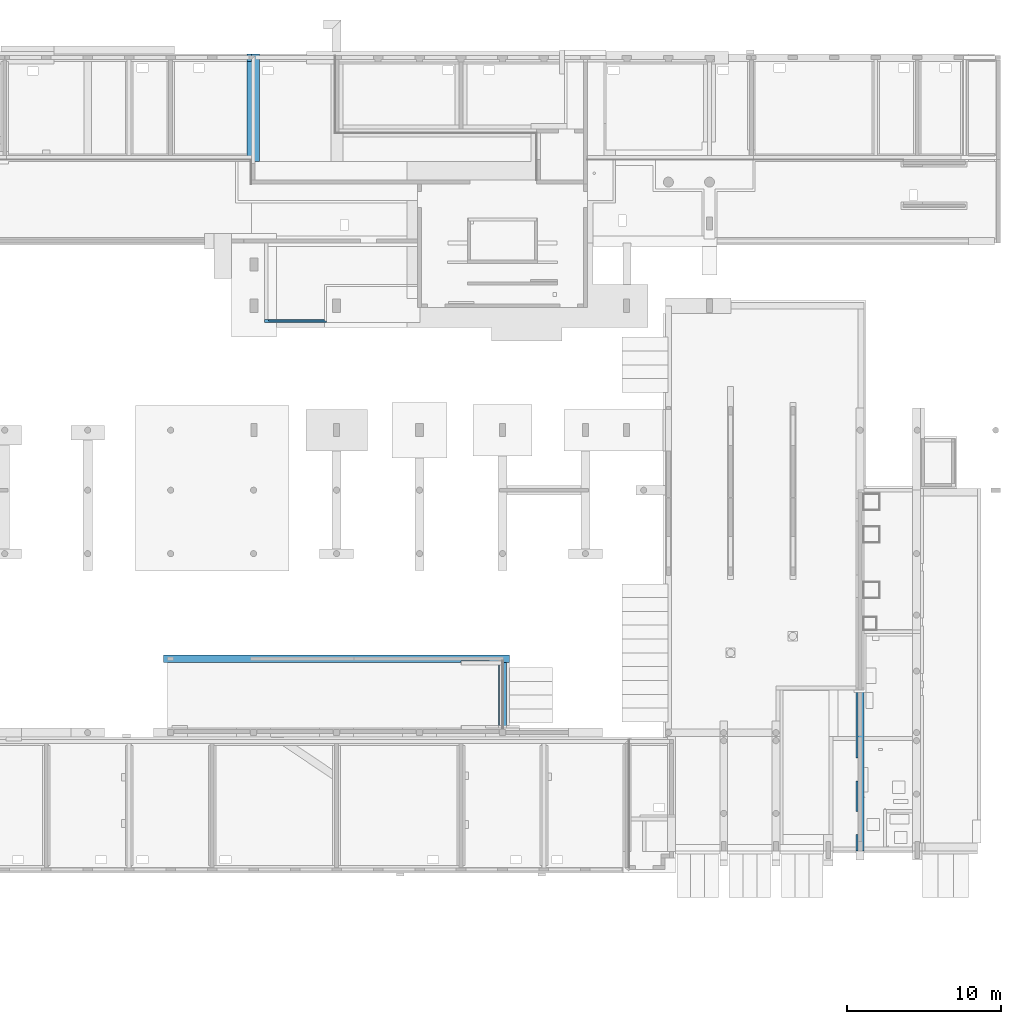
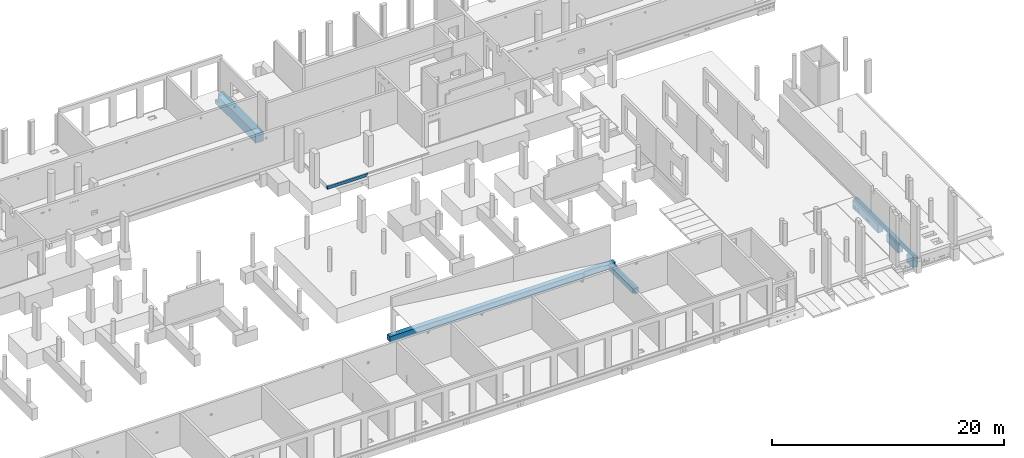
# One storey, part 58 of 60: 5 footings.
"""IFC2X3 building model written with IfcOpenShell, lengths in millimetres."""

from ifc_helpers import new_model, entity, si_unit, converted_unit, derived_unit, direction, frame, origin, place, context, subcontext, project, spatial, faceted_brep, material, element, save


model = new_model("IFC2X3")

# Units and contexts
model_context = context("Model", 3, precision=0.01, world=origin(), true_north=direction((6.12303176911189e-17, 1.0)))
body_context = subcontext(model_context, "Body", "Model", "MODEL_VIEW")
ifc_project = project(units=[si_unit("LENGTHUNIT", "METRE", prefix="MILLI"), si_unit("AREAUNIT", "SQUARE_METRE"), si_unit("VOLUMEUNIT", "CUBIC_METRE"), converted_unit("PLANEANGLEUNIT", "DEGREE", entity("IfcRatioMeasure", 0.0174532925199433), si_unit("PLANEANGLEUNIT", "RADIAN"), dimensions=[0, 0, 0, 0, 0, 0, 0]), si_unit("MASSUNIT", "GRAM", prefix="KILO"), derived_unit("MASSDENSITYUNIT", [(si_unit("MASSUNIT", "GRAM", prefix="KILO"), 1), (si_unit("LENGTHUNIT", "METRE"), -3)]), si_unit("TIMEUNIT", "SECOND"), si_unit("FREQUENCYUNIT", "HERTZ"), si_unit("THERMODYNAMICTEMPERATUREUNIT", "DEGREE_CELSIUS"), derived_unit("THERMALTRANSMITTANCEUNIT", [(si_unit("MASSUNIT", "GRAM", prefix="KILO"), 1), (si_unit("THERMODYNAMICTEMPERATUREUNIT", "KELVIN"), -1), (si_unit("TIMEUNIT", "SECOND"), -3)]), derived_unit("VOLUMETRICFLOWRATEUNIT", [(si_unit("LENGTHUNIT", "METRE"), 3), (si_unit("TIMEUNIT", "SECOND"), -1)]), si_unit("ELECTRICCURRENTUNIT", "AMPERE"), si_unit("ELECTRICVOLTAGEUNIT", "VOLT"), si_unit("POWERUNIT", "WATT"), si_unit("FORCEUNIT", "NEWTON", prefix="KILO"), si_unit("ILLUMINANCEUNIT", "LUX"), si_unit("LUMINOUSFLUXUNIT", "LUMEN"), si_unit("LUMINOUSINTENSITYUNIT", "CANDELA"), derived_unit("USERDEFINED", [(si_unit("MASSUNIT", "GRAM", prefix="KILO"), -1), (si_unit("LENGTHUNIT", "METRE"), -2), (si_unit("TIMEUNIT", "SECOND"), 3), (si_unit("LUMINOUSFLUXUNIT", "LUMEN"), 1)]), derived_unit("LINEARVELOCITYUNIT", [(si_unit("LENGTHUNIT", "METRE"), 1), (si_unit("TIMEUNIT", "SECOND"), -1)]), si_unit("PRESSUREUNIT", "PASCAL"), derived_unit("USERDEFINED", [(si_unit("LENGTHUNIT", "METRE"), -2), (si_unit("MASSUNIT", "GRAM", prefix="KILO"), 1), (si_unit("TIMEUNIT", "SECOND"), -2)])], contexts=[model_context])

# Site, building, storey
site_placement = place(None, origin())
site = spatial("IfcSite", under=ifc_project, at=site_placement, Name="Default", CompositionType="ELEMENT")
building_placement = place(site_placement, origin())
building = spatial("IfcBuilding", under=site, at=building_placement, Name="niet gebruiken", CompositionType="ELEMENT")
storey_placement = place(building_placement, origin())
storey = spatial("IfcBuildingStorey", under=building, at=storey_placement, Name="00 begane grond", CompositionType="ELEMENT", Elevation=0.0)

# Footings
ifc_material = material(Name="NLRS_f2_beton ihwg")
footing_1_placement = place(storey_placement, frame((69750.0, 13751.0, -800.0)))
element("IfcFooting", 1, at=footing_1_placement, inside=storey, material=ifc_material, Name="NLRS_16.12_SF_WPB_funderingsbalk ihwg recht_gen:500x600", ObjectType="NLRS_16.12_SF_WPB_funderingsbalk ihwg recht_gen:500x600", PredefinedType="FOOTING_BEAM", context=body_context, shape_type="Brep", body=[
    faceted_brep([(0.0, 500.0, 600.0), (0.0, 500.0, 0.0), (0.0, 0.0, 0.0), (0.0, 0.0, 600.0), (22500.0, 500.0, 600.0), (22500.0, 0.0, 600.0), (22500.0, 0.0, 400.0), (22500.0, 0.0, 200.0), (22500.0, 0.0, 0.0), (22500.0, 500.0, 0.0), (22300.0, 0.0, 0.0), (21949.9998372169, 0.0, 0.0), (21949.9998372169, 105.0, 0.0), (19350.0, 105.0, 0.0), (19350.0, 0.0, 0.0), (19350.0, 0.0, 600.0), (19350.0, 105.0, 600.0), (21208.2927959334, 105.0, 600.0), (21208.2927959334, 0.0, 600.0), (21800.0, 0.0, 600.0), (22300.0, 0.0, 600.0), (21949.9998372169, 105.0, 504.882939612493), (21949.9998372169, 0.0, 504.882939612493), (21800.0, 0.0, 524.119029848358)], [[[0, 1, 2, 3]], [[4, 5, 6, 7, 8, 9]], [[1, 0, 4, 9]], [[2, 1, 9, 8, 10, 11, 12, 13, 14]], [[3, 2, 14, 15]], [[0, 3, 15, 16, 17, 18, 19, 20, 5, 4]], [[12, 21, 17, 16, 13]], [[21, 12, 11, 22]], [[17, 21, 22, 23, 18]], [[13, 16, 15, 14]], [[8, 7, 6, 5, 20, 19, 18, 23, 22, 11, 10]]]),
])
footing_2_placement = place(storey_placement, frame((75175.0, 46381.0, -1492.0)))
element("IfcFooting", 2, at=footing_2_placement, inside=storey, material=ifc_material, Name="NLRS_16.12_SF_WPB_funderingsbalk ihwg recht_gen:800x1000", ObjectType="NLRS_16.12_SF_WPB_funderingsbalk ihwg recht_gen:800x1000", PredefinedType="FOOTING_BEAM", context=body_context, shape_type="Brep", body=[
    faceted_brep([(800.0, 0.0, 0.0), (800.0, 0.0, 1000.0), (0.0, 0.0, 1000.0), (0.0, 0.0, 390.0), (0.0, 0.0, 0.0), (800.0, 6500.0, 1000.0), (800.0, 7000.0, 1000.0), (275.0, 7000.0, 1000.0), (275.0, 6625.0, 1000.0), (275.0, 6500.0, 1000.0), (0.0, 6500.0, 1000.0), (0.0, 490.0, 1000.0), (800.0, 7000.0, 0.0), (0.0, 7000.0, 0.0), (0.0, 7000.0, 400.0), (275.0, 7000.0, 400.0), (800.0, 7000.0, 400.0), (0.0, 6500.0, 400.0), (275.0, 6500.0, 400.0)], [[[0, 1, 2, 3, 4]], [[2, 1, 5, 6, 7, 8, 9, 10, 11]], [[12, 13, 14, 15, 7, 6, 16]], [[1, 0, 12, 16, 6, 5]], [[0, 4, 13, 12]], [[4, 3, 2, 11, 10, 17, 14, 13]], [[18, 9, 8, 7, 15]], [[18, 15, 14, 17]], [[9, 18, 17, 10]]]),
])
footing_3_placement = place(storey_placement, frame((91550.0, 9496.0, -800.0)))
element("IfcFooting", 3, at=footing_3_placement, inside=storey, material=ifc_material, Name="NLRS_16.12_SF_WPB_funderingsbalk ihwg recht_gen:500x600", ObjectType="NLRS_16.12_SF_WPB_funderingsbalk ihwg recht_gen:500x600", PredefinedType="FOOTING_BEAM", context=body_context, shape_type="Brep", body=[
    faceted_brep([(500.0, 0.0, 0.0), (500.0, 0.0, 200.0), (500.0, 0.0, 400.0), (500.0, 0.0, 600.0), (0.0, 0.0, 600.0), (0.0, 0.0, 524.119029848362), (149.999837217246, 0.0, 504.882939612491), (149.999837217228, 0.0, 0.0), (0.0, 4255.0, 600.0), (500.0, 4255.0, 600.0), (500.0, 4255.0, 400.0), (500.0, 4255.0, 200.0), (500.0, 4255.0, 0.0), (149.999837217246, 4255.0, 0.0), (149.999837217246, 4255.0, 504.882939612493), (0.0, 4255.0, 524.119029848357), (0.0, 20.0, 534.200922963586), (0.0, 4235.0, 534.20092296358), (0.0, 4235.0, 600.0), (0.0, 4110.0, 524.119029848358), (0.0, 4110.0, 0.0), (0.0, 170.0, 0.0), (0.0, 170.0, 524.11902984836), (0.0, 20.0, 600.0), (500.0, 170.0, 0.0), (149.999837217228, 170.0, 0.0), (149.999837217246, 4110.0, 0.0), (500.0, 170.0, 600.0), (50.0, 4235.0, 600.0), (50.0, 20.0, 600.0), (50.0, 20.0, 527.788885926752), (50.0, 4235.0, 527.78888592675), (149.999837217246, 4110.0, 504.882939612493), (149.999837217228, 170.0, 504.882939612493)], [[[0, 1, 2, 3, 4, 5, 6, 7]], [[8, 9, 10, 11, 12, 13, 14, 15]], [[16, 17, 18, 8, 15, 19, 20, 21, 22, 5, 4, 23]], [[12, 24, 0, 7, 25, 21, 20, 26, 13]], [[3, 2, 1, 0, 24, 12, 11, 10, 9, 27]], [[4, 3, 27, 9, 8, 18, 28, 29, 23]], [[30, 31, 17, 16]], [[31, 30, 29, 28]], [[32, 26, 20, 19]], [[26, 32, 14, 13]], [[32, 19, 15, 14]], [[17, 31, 28, 18]], [[25, 33, 22, 21]], [[33, 25, 7, 6]], [[22, 33, 6, 5]], [[30, 16, 23, 29]]]),
])
footing_4_placement = place(storey_placement, frame((114825.0, 1500.0, -1300.0)))
element("IfcFooting", 4, at=footing_4_placement, inside=storey, material=ifc_material, Name="NLRS_16.12_SF_WPB_funderingsbalk ihwg recht_gen:500x1000", ObjectType="NLRS_16.12_SF_WPB_funderingsbalk ihwg recht_gen:500x1000", PredefinedType="FOOTING_BEAM", context=body_context, shape_type="Brep", body=[
    faceted_brep([(125.0, 10471.0, 850.0), (125.0, 10471.0, 1000.0), (500.0, 10471.0, 1000.0), (500.0, 10471.0, 0.0), (0.0, 10471.0, 0.0), (0.0, 10471.0, 850.0), (0.0, 0.0, 0.0), (500.0, 0.0, 0.0), (500.0, 0.0, 1000.0), (125.0, 0.0, 1000.0), (125.0, 0.0, 850.0), (0.0, 0.0, 850.0), (500.0, 10031.0596194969, 471.451834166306), (500.0, 10077.0, 477.499999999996), (500.0, 9522.94038050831, 471.451834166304), (500.0, 9565.75000000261, 453.719509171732), (500.0, 9988.25000000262, 453.719509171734), (500.0, 10122.9403805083, 471.451834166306), (500.0, 10165.7500000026, 453.719509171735), (500.0, 10202.5114536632, 425.511453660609), (500.0, 10230.7195091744, 388.749999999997), (500.0, 10248.4518341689, 345.940380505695), (500.0, 10254.5000000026, 300.0), (500.0, 10248.4518341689, 254.059619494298), (500.0, 10230.7195091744, 211.249999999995), (500.0, 10202.5114536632, 174.488546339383), (500.0, 10165.7500000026, 146.280490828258), (500.0, 10122.9403805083, 128.548165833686), (500.0, 10077.0, 122.499999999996), (500.0, 10031.0596194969, 128.548165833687), (500.0, 9522.94038050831, 128.548165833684), (500.0, 9988.25000000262, 146.280490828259), (500.0, 9565.75000000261, 146.280490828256), (500.0, 9951.488546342, 174.488546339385), (500.0, 9602.51145366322, 174.488546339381), (500.0, 9923.28049083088, 211.249999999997), (500.0, 9630.71950917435, 211.249999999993), (500.0, 9905.54816583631, 254.059619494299), (500.0, 9648.45183416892, 254.059619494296), (500.0, 9899.50000000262, 300.0), (500.0, 9654.50000000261, 300.0), (500.0, 9905.54816583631, 345.940380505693), (500.0, 9648.45183416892, 345.940380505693), (500.0, 9923.28049083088, 388.749999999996), (500.0, 9630.71950917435, 388.749999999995), (500.0, 9951.488546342, 425.511453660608), (500.0, 9602.51145366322, 425.511453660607), (500.0, 9477.0, 122.499999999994), (500.0, 7446.0, 0.0), (500.0, 9431.05961949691, 128.548165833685), (500.0, 8006.27682117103, 222.725933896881), (500.0, 9388.25000000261, 146.280490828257), (500.0, 8025.57129756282, 230.717967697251), (500.0, 9351.48854634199, 174.488546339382), (500.0, 8042.13984005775, 243.431457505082), (500.0, 9323.28049083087, 211.249999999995), (500.0, 8054.85332986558, 260.0), (500.0, 9305.5481658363, 254.059619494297), (500.0, 8062.84536366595, 279.294476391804), (500.0, 9299.50000000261, 300.0), (500.0, 8065.57129756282, 300.0), (500.0, 8062.84536366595, 320.705523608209), (500.0, 9305.5481658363, 345.940380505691), (500.0, 8054.85332986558, 340.0), (500.0, 9323.28049083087, 388.749999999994), (500.0, 8042.13984005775, 356.568542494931), (500.0, 9351.48854634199, 425.511453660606), (500.0, 8025.57129756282, 369.282032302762), (500.0, 9388.25000000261, 453.719509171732), (500.0, 7446.0, 1000.0), (500.0, 9431.05961949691, 471.451834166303), (500.0, 9477.0, 477.499999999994), (500.0, 8006.27682117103, 377.274066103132), (500.0, 7985.57129756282, 380.0), (500.0, 7964.86577395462, 377.274066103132), (500.0, 7706.27682117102, 377.274066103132), (500.0, 7685.57129756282, 380.0), (500.0, 7664.86577395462, 377.274066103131), (500.0, 7645.57129756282, 369.282032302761), (500.0, 7629.0027550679, 356.56854249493), (500.0, 7196.0, 1000.0), (500.0, 7616.28926526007, 340.0), (500.0, 7608.2972314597, 320.705523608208), (500.0, 7196.0, 0.0), (500.0, 6046.0, 850.0), (500.0, 5438.0, 1000.0), (500.0, 4546.0, 850.0), (500.0, 3838.0, 1000.0), (500.0, 4546.0, 0.0), (500.0, 2575.0, 0.0), (500.0, 2575.0, 850.0), (500.0, 250.0, 1000.0), (500.0, 1075.0, 850.0), (500.0, 250.0, 0.0), (500.0, 1075.0, 0.0), (500.0, 6046.0, 0.0), (500.0, 7605.57129756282, 300.0), (500.0, 7985.57129756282, 220.0), (500.0, 7964.86577395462, 222.725933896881), (500.0, 7706.27682117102, 222.725933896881), (500.0, 7685.57129756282, 220.0), (500.0, 7664.86577395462, 222.725933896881), (500.0, 7645.57129756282, 230.717967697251), (500.0, 7629.0027550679, 243.431457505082), (500.0, 7616.28926526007, 260.0), (500.0, 7608.2972314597, 279.294476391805), (500.0, 7725.57129756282, 369.282032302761), (500.0, 7945.57129756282, 369.282032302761), (500.0, 7742.13984005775, 356.56854249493), (500.0, 7929.0027550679, 356.56854249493), (500.0, 7754.85332986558, 340.0), (500.0, 7916.28926526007, 340.0), (500.0, 7762.84536366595, 320.705523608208), (500.0, 7908.2972314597, 320.705523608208), (500.0, 7765.57129756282, 300.0), (500.0, 7905.57129756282, 300.0), (500.0, 7762.84536366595, 279.294476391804), (500.0, 7908.2972314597, 279.294476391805), (500.0, 7754.85332986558, 260.0), (500.0, 7916.28926526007, 260.0), (500.0, 7742.13984005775, 243.431457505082), (500.0, 7929.0027550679, 243.431457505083), (500.0, 7725.57129756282, 230.717967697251), (500.0, 7945.57129756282, 230.717967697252), (0.0, 6046.0, 0.0), (0.0, 4546.0, 0.0), (0.0, 2575.0, 0.0), (0.0, 1075.0, 0.0), (0.0, 250.0, 0.0), (0.0, 10077.0, 122.499999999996), (0.0, 10122.9403805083, 128.548165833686), (0.0, 10031.0596194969, 128.548165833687), (0.0, 10165.7500000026, 146.280490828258), (0.0, 10202.5114536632, 174.488546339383), (0.0, 10230.7195091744, 211.249999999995), (0.0, 10248.4518341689, 254.059619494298), (0.0, 10254.5000000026, 300.0), (0.0, 10248.4518341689, 345.940380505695), (0.0, 10230.7195091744, 388.749999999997), (0.0, 10202.5114536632, 425.511453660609), (0.0, 10165.7500000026, 453.719509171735), (0.0, 10122.9403805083, 471.451834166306), (0.0, 10077.0, 477.499999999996), (0.0, 10031.0596194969, 471.451834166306), (0.0, 9522.94038050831, 471.451834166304), (0.0, 9565.75000000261, 453.719509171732), (0.0, 9988.25000000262, 453.719509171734), (0.0, 9602.51145366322, 425.511453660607), (0.0, 9951.488546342, 425.511453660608), (0.0, 9630.71950917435, 388.749999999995), (0.0, 9923.28049083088, 388.749999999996), (0.0, 9648.45183416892, 345.940380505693), (0.0, 9905.54816583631, 345.940380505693), (0.0, 9654.50000000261, 300.0), (0.0, 9899.50000000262, 300.0), (0.0, 9648.45183416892, 254.059619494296), (0.0, 9905.54816583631, 254.059619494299), (0.0, 9630.71950917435, 211.249999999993), (0.0, 9923.28049083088, 211.249999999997), (0.0, 9602.51145366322, 174.488546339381), (0.0, 9951.488546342, 174.488546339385), (0.0, 9565.75000000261, 146.280490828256), (0.0, 9988.25000000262, 146.280490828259), (0.0, 9522.94038050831, 128.548165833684), (0.0, 9477.0, 122.499999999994), (0.0, 9431.05961949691, 128.548165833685), (0.0, 7985.57129756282, 220.0), (0.0, 7685.57129756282, 220.0), (0.0, 7664.86577395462, 222.725933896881), (0.0, 7645.57129756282, 230.717967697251), (0.0, 7629.0027550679, 243.431457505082), (0.0, 7616.28926526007, 260.0), (0.0, 7608.2972314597, 279.294476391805), (0.0, 7605.57129756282, 300.0), (0.0, 7608.2972314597, 320.705523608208), (0.0, 6046.0, 850.0), (0.0, 7616.28926526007, 340.0), (0.0, 7629.0027550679, 356.56854249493), (0.0, 7645.57129756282, 369.282032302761), (0.0, 7664.86577395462, 377.274066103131), (0.0, 7685.57129756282, 380.0), (0.0, 7985.57129756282, 380.0), (0.0, 9477.0, 477.499999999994), (0.0, 9431.05961949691, 471.451834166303), (0.0, 8006.27682117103, 377.274066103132), (0.0, 7964.86577395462, 377.274066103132), (0.0, 7706.27682117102, 377.274066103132), (0.0, 7945.57129756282, 369.282032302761), (0.0, 7725.57129756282, 369.282032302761), (0.0, 7929.0027550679, 356.56854249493), (0.0, 7742.13984005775, 356.56854249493), (0.0, 7916.28926526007, 340.0), (0.0, 7754.85332986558, 340.0), (0.0, 7908.2972314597, 320.705523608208), (0.0, 7762.84536366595, 320.705523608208), (0.0, 7905.57129756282, 300.0), (0.0, 7765.57129756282, 300.0), (0.0, 7908.2972314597, 279.294476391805), (0.0, 7762.84536366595, 279.294476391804), (0.0, 7916.28926526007, 260.0), (0.0, 7754.85332986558, 260.0), (0.0, 7929.0027550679, 243.431457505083), (0.0, 7742.13984005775, 243.431457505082), (0.0, 7945.57129756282, 230.717967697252), (0.0, 7725.57129756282, 230.717967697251), (0.0, 7964.86577395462, 222.725933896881), (0.0, 7706.27682117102, 222.725933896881), (0.0, 8006.27682117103, 222.725933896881), (0.0, 9388.25000000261, 146.280490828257), (0.0, 8025.57129756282, 230.717967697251), (0.0, 9351.48854634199, 174.488546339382), (0.0, 8042.13984005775, 243.431457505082), (0.0, 9323.28049083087, 211.249999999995), (0.0, 8054.85332986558, 260.0), (0.0, 9305.5481658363, 254.059619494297), (0.0, 8062.84536366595, 279.294476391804), (0.0, 9299.50000000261, 300.0), (0.0, 8065.57129756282, 300.0), (0.0, 8062.84536366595, 320.705523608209), (0.0, 9305.5481658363, 345.940380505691), (0.0, 8054.85332986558, 340.0), (0.0, 9323.28049083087, 388.749999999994), (0.0, 8042.13984005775, 356.568542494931), (0.0, 9351.48854634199, 425.511453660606), (0.0, 8025.57129756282, 369.282032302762), (0.0, 9388.25000000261, 453.719509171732), (0.0, 4546.0, 850.0), (0.0, 2575.0, 850.0), (0.0, 1075.0, 850.0), (0.0, 250.0, 850.0), (125.0, 4546.0, 850.0), (125.0, 6046.0, 850.0), (125.0, 1075.0, 850.0), (125.0, 2575.0, 850.0)], [[[0, 1, 2, 3, 4, 5]], [[6, 7, 8, 9, 10, 11]], [[12, 13, 2]], [[12, 2, 14]], [[15, 12, 14]], [[16, 12, 15]], [[17, 2, 13]], [[2, 17, 18]], [[18, 19, 2]], [[20, 2, 19]], [[2, 20, 21]], [[21, 3, 2]], [[3, 21, 22]], [[23, 3, 22]], [[3, 23, 24]], [[3, 24, 25]], [[3, 25, 26]], [[26, 27, 3]], [[28, 3, 27]], [[3, 28, 29]], [[29, 30, 3]], [[30, 29, 31]], [[32, 30, 31]], [[31, 33, 32]], [[32, 33, 34]], [[34, 33, 35]], [[36, 34, 35]], [[35, 37, 36]], [[37, 38, 36]], [[37, 39, 38]], [[39, 40, 38]], [[40, 39, 41]], [[41, 42, 40]], [[41, 43, 42]], [[42, 43, 44]], [[45, 44, 43]], [[45, 16, 46]], [[46, 44, 45]], [[30, 47, 3]], [[3, 47, 48]], [[48, 47, 49]], [[48, 49, 50]], [[49, 51, 50]], [[50, 51, 52]], [[51, 53, 52]], [[52, 53, 54]], [[53, 55, 54]], [[55, 56, 54]], [[57, 56, 55]], [[56, 57, 58]], [[57, 59, 58]], [[58, 59, 60]], [[59, 61, 60]], [[61, 59, 62]], [[63, 61, 62]], [[62, 64, 63]], [[63, 64, 65]], [[64, 66, 65]], [[67, 65, 66]], [[67, 66, 68]], [[69, 67, 68]], [[70, 69, 68]], [[2, 70, 71]], [[70, 2, 69]], [[2, 71, 14]], [[67, 69, 72]], [[73, 72, 69]], [[74, 73, 69]], [[74, 69, 75]], [[69, 76, 75]], [[69, 77, 76]], [[77, 69, 78]], [[69, 79, 78]], [[80, 79, 69]], [[80, 81, 79]], [[80, 82, 81]], [[83, 82, 80]], [[80, 84, 83]], [[85, 84, 80]], [[86, 84, 85]], [[86, 85, 87]], [[88, 86, 87]], [[89, 88, 87]], [[90, 89, 87]], [[87, 91, 90]], [[90, 91, 92]], [[92, 91, 93]], [[8, 93, 91]], [[93, 8, 7]], [[92, 93, 94]], [[95, 83, 84]], [[82, 83, 96]], [[96, 83, 48]], [[48, 50, 97]], [[97, 98, 48]], [[99, 48, 98]], [[48, 99, 100]], [[48, 100, 101]], [[101, 102, 48]], [[48, 102, 103]], [[48, 103, 104]], [[48, 104, 105]], [[48, 105, 96]], [[106, 74, 75]], [[107, 74, 106]], [[107, 106, 108]], [[109, 107, 108]], [[110, 109, 108]], [[111, 109, 110]], [[111, 110, 112]], [[111, 112, 113]], [[113, 112, 114]], [[114, 115, 113]], [[114, 116, 115]], [[116, 117, 115]], [[117, 116, 118]], [[117, 118, 119]], [[120, 119, 118]], [[121, 119, 120]], [[121, 120, 122]], [[123, 121, 122]], [[122, 99, 123]], [[99, 98, 123]], [[16, 15, 46]], [[124, 4, 3, 48, 83, 95]], [[125, 88, 89, 126]], [[127, 94, 93, 7, 6, 128]], [[129, 130, 4]], [[131, 129, 4]], [[132, 4, 130]], [[4, 132, 133]], [[133, 134, 4]], [[135, 4, 134]], [[4, 135, 136]], [[136, 137, 4]], [[5, 4, 137]], [[138, 5, 137]], [[5, 138, 139]], [[5, 139, 140]], [[140, 141, 5]], [[142, 5, 141]], [[143, 5, 142]], [[144, 5, 143]], [[145, 144, 143]], [[143, 146, 145]], [[145, 146, 147]], [[146, 148, 147]], [[147, 148, 149]], [[149, 148, 150]], [[151, 149, 150]], [[151, 150, 152]], [[152, 153, 151]], [[154, 153, 152]], [[155, 153, 154]], [[156, 155, 154]], [[156, 157, 155]], [[157, 156, 158]], [[157, 158, 159]], [[159, 158, 160]], [[161, 159, 160]], [[161, 160, 162]], [[163, 161, 162]], [[163, 162, 131]], [[163, 131, 4]], [[163, 4, 164]], [[124, 164, 4]], [[124, 165, 164]], [[166, 165, 124]], [[167, 166, 124]], [[168, 167, 124]], [[169, 168, 124]], [[124, 170, 169]], [[171, 170, 124]], [[124, 172, 171]], [[173, 172, 124]], [[173, 124, 174]], [[124, 175, 174]], [[175, 176, 174]], [[175, 177, 176]], [[177, 175, 178]], [[178, 175, 179]], [[180, 179, 175]], [[180, 175, 181]], [[181, 175, 5]], [[144, 182, 5]], [[5, 182, 183]], [[5, 183, 181]], [[181, 183, 184]], [[180, 181, 185]], [[185, 186, 180]], [[186, 185, 187]], [[188, 186, 187]], [[188, 187, 189]], [[189, 190, 188]], [[189, 191, 190]], [[191, 192, 190]], [[191, 193, 192]], [[192, 193, 194]], [[193, 195, 194]], [[194, 195, 196]], [[197, 196, 195]], [[197, 198, 196]], [[198, 197, 199]], [[199, 200, 198]], [[200, 199, 201]], [[200, 201, 202]], [[203, 202, 201]], [[204, 202, 203]], [[205, 204, 203]], [[205, 166, 167]], [[204, 205, 206]], [[167, 206, 205]], [[207, 165, 166]], [[207, 208, 165]], [[207, 209, 208]], [[209, 210, 208]], [[210, 209, 211]], [[211, 212, 210]], [[213, 212, 211]], [[212, 213, 214]], [[213, 215, 214]], [[216, 214, 215]], [[215, 217, 216]], [[217, 218, 216]], [[218, 219, 216]], [[219, 218, 220]], [[221, 219, 220]], [[222, 221, 220]], [[221, 222, 223]], [[223, 222, 224]], [[225, 223, 224]], [[184, 225, 224]], [[184, 183, 225]], [[226, 125, 126, 227]], [[228, 127, 128, 6, 11, 229]], [[9, 8, 91, 87, 85, 80, 69, 2, 1]], [[230, 231, 84, 86]], [[232, 233, 90, 92]], [[88, 125, 226, 230, 86]], [[124, 95, 84, 231, 175]], [[94, 127, 228, 232, 92]], [[126, 89, 90, 233, 227]], [[175, 231, 0, 5]], [[233, 230, 226, 227]], [[229, 11, 10, 232, 228]], [[232, 10, 9, 1, 0, 231, 230, 233]], [[117, 119, 199, 197]], [[115, 117, 197, 195]], [[123, 98, 205, 203]], [[121, 123, 203, 201]], [[119, 121, 201, 199]], [[98, 97, 166, 205]], [[52, 54, 211, 209]], [[50, 52, 209, 207]], [[58, 60, 217, 215]], [[56, 58, 215, 213]], [[54, 56, 213, 211]], [[97, 50, 207, 166]], [[218, 217, 60, 61]], [[220, 218, 61, 63]], [[67, 72, 184, 224]], [[65, 67, 224, 222]], [[63, 65, 222, 220]], [[72, 73, 181, 184]], [[107, 109, 189, 187]], [[74, 107, 187, 185]], [[113, 115, 195, 193]], [[111, 113, 193, 191]], [[109, 111, 191, 189]], [[73, 74, 185, 181]], [[171, 172, 105, 104]], [[171, 104, 103, 170]], [[168, 169, 102, 101]], [[103, 102, 169, 170]], [[167, 168, 101, 100]], [[173, 96, 105, 172]], [[204, 206, 99, 122]], [[204, 122, 120, 202]], [[198, 200, 118, 116]], [[120, 118, 200, 202]], [[196, 198, 116, 114]], [[100, 99, 206, 167]], [[192, 110, 108, 190]], [[188, 106, 75, 186]], [[108, 106, 188, 190]], [[180, 186, 75, 76]], [[112, 194, 196, 114]], [[112, 110, 192, 194]], [[178, 179, 77, 78]], [[178, 78, 79, 177]], [[174, 176, 81, 82]], [[79, 81, 176, 177]], [[173, 174, 82, 96]], [[76, 77, 179, 180]], [[212, 214, 57, 55]], [[212, 55, 53, 210]], [[165, 208, 51, 49]], [[53, 51, 208, 210]], [[164, 165, 49, 47]], [[216, 59, 57, 214]], [[161, 163, 30, 32]], [[161, 32, 34, 159]], [[155, 157, 36, 38]], [[34, 36, 157, 159]], [[153, 155, 38, 40]], [[47, 30, 163, 164]], [[147, 149, 44, 46]], [[144, 145, 15, 14]], [[46, 15, 145, 147]], [[182, 144, 14, 71]], [[42, 151, 153, 40]], [[44, 149, 151, 42]], [[225, 183, 70, 68]], [[225, 68, 66, 223]], [[219, 221, 64, 62]], [[66, 64, 221, 223]], [[216, 219, 62, 59]], [[71, 70, 183, 182]], [[158, 156, 37, 35]], [[158, 35, 33, 160]], [[131, 162, 31, 29]], [[33, 31, 162, 160]], [[129, 131, 29, 28]], [[154, 39, 37, 156]], [[132, 130, 27, 26]], [[132, 26, 25, 133]], [[135, 134, 24, 23]], [[25, 24, 134, 133]], [[136, 135, 23, 22]], [[28, 27, 130, 129]], [[139, 138, 20, 19]], [[141, 140, 18, 17]], [[19, 18, 140, 139]], [[142, 141, 17, 13]], [[21, 137, 136, 22]], [[20, 138, 137, 21]], [[146, 143, 12, 16]], [[146, 16, 45, 148]], [[152, 150, 43, 41]], [[45, 43, 150, 148]], [[154, 152, 41, 39]], [[13, 12, 143, 142]]]),
])
footing_5_placement = place(storey_placement, frame((76300.0, 35906.0, -402.0)))
element("IfcFooting", 5, at=footing_5_placement, inside=storey, material=ifc_material, Name="NLRS_16.12_SF_WPB_opstort ihwg recht_gen:175x332", ObjectType="NLRS_16.12_SF_WPB_opstort ihwg recht_gen:175x332", PredefinedType="FOOTING_BEAM", context=body_context, shape_type="Brep", body=[
    faceted_brep([(0.0, 175.0, 332.0), (0.0, 175.0, 0.0), (0.0, 0.0, 0.0), (0.0, 0.0, 332.0), (4050.0, 70.0, 332.0), (4050.0, 0.0, 332.0), (4050.0, 0.0, 202.0), (4050.0, 70.0, 202.0), (250.0, 175.0, 332.0), (270.0, 175.0, 332.0), (270.0, 175.0, 132.0), (3900.0, 175.0, 132.0), (3900.0, 175.0, 0.0), (775.0, 175.0, 0.0), (250.0, 175.0, 0.0), (3900.0, 0.0, 0.0), (3900.0, 0.0, 202.0), (270.0, 70.0, 332.0), (270.0, 70.0, 132.0), (3900.0, 70.0, 132.0), (3900.0, 70.0, 202.0)], [[[0, 1, 2, 3]], [[4, 5, 6, 7]], [[1, 0, 8, 9, 10, 11, 12, 13, 14]], [[2, 1, 14, 13, 12, 15]], [[3, 2, 15, 16, 6, 5]], [[0, 3, 5, 4, 17, 9, 8]], [[10, 18, 19, 11]], [[18, 17, 4, 7, 20, 19]], [[16, 20, 7, 6]], [[20, 16, 15, 12, 11, 19]], [[17, 18, 10, 9]]]),
])

save(model, "model.ifc")
